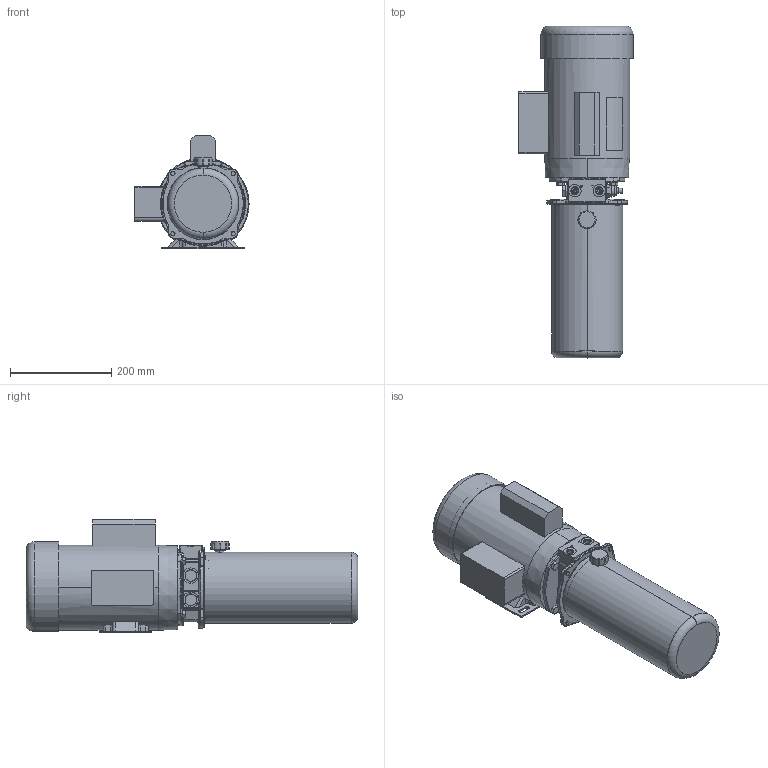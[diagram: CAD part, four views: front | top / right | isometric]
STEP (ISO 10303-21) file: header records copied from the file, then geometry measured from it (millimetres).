
FILE_DESCRIPTION((''),'2;1');
FILE_NAME('649048_SW0002','2015-01-19T',('GB10196'),('OILDYNE'),'PRO/ENGINEER BY PARAMETRIC TECHNOLOGY CORPORATION, 2009300','PRO/ENGINEER BY PARAMETRIC TECHNOLOGY CORPORATION, 2009300','');
FILE_SCHEMA(('CONFIG_CONTROL_DESIGN'));
Length unit declared in the file: inch
Products named in the file (1): 649048_SW0002
Bounding box: 225.67 x 655.9 x 224.03 mm (x, y, z)
Surface area: 718146.7 mm2 (no closed solid volume)
Topology: 0 solids, 47 shells, 1103 faces, 2957 edges, 1870 vertices
Faces by surface type: cylinder 305, plane 263, bspline 228, cone 189, sphere 65, torus 53
Entity records: 46006 total; most frequent: CARTESIAN_POINT 20774, ORIENTED_EDGE 5291, DIRECTION 4821, EDGE_CURVE 2951, AXIS2_PLACEMENT_3D 1903, VERTEX_POINT 1870, EDGE_LOOP 1192, FACE_OUTER_BOUND 1103
